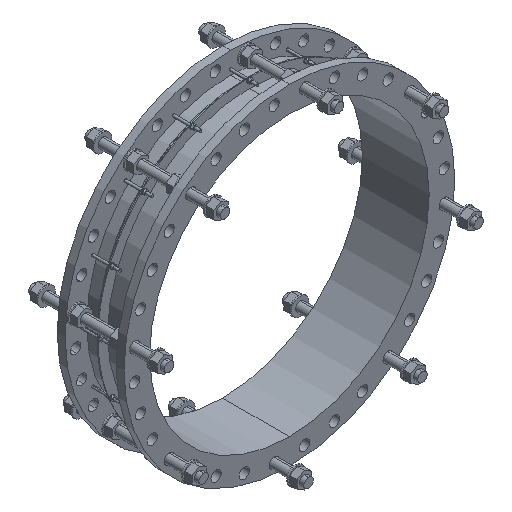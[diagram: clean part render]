
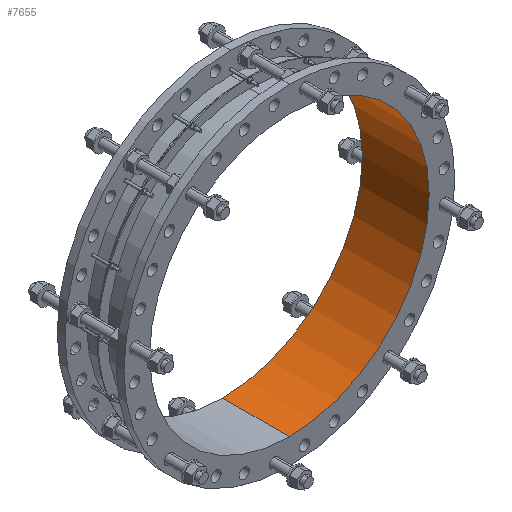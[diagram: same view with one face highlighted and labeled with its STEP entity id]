
A CAD part, isometric view. The second image highlights one B-rep face of the part: STEP entity #7655.
In plain terms, the highlighted cylindrical face has radius 669.5 mm (diameter 1339 mm), a partial arc.
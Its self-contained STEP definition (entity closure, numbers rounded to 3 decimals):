
#7=DIRECTION('',(0.,-1.,0.));
#8=VECTOR('',#7,320.);
#9=CARTESIAN_POINT('',(0.,0.,-669.5));
#10=LINE('',#9,#8);
#11=CARTESIAN_POINT('',(0.,0.,0.));
#12=DIRECTION('',(0.,-1.,0.));
#13=DIRECTION('',(0.,0.,-1.));
#14=AXIS2_PLACEMENT_3D('',#11,#12,#13);
#16=DIRECTION('',(0.,-1.,0.));
#17=VECTOR('',#16,320.);
#18=CARTESIAN_POINT('',(0.,0.,669.5));
#19=LINE('',#18,#17);
#2348=CARTESIAN_POINT('',(0.,-320.,0.));
#2349=DIRECTION('',(0.,-1.,0.));
#2350=DIRECTION('',(0.,0.,-1.));
#2351=AXIS2_PLACEMENT_3D('',#2348,#2349,#2350);
#6164=CARTESIAN_POINT('',(0.,0.,-669.5));
#6165=CARTESIAN_POINT('',(0.,-320.,-669.5));
#6166=VERTEX_POINT('',#6164);
#6167=VERTEX_POINT('',#6165);
#6184=CARTESIAN_POINT('',(0.,0.,669.5));
#6185=CARTESIAN_POINT('',(0.,-320.,669.5));
#6186=VERTEX_POINT('',#6184);
#6187=VERTEX_POINT('',#6185);
#7642=CARTESIAN_POINT('',(0.,-336.,0.));
#7643=DIRECTION('',(0.,1.,0.));
#7644=DIRECTION('',(0.,0.,-1.));
#7645=AXIS2_PLACEMENT_3D('',#7642,#7643,#7644);
#7646=CYLINDRICAL_SURFACE('',#7645,669.5);
#7647=ORIENTED_EDGE('',*,*,#7631,.F.);
#7649=ORIENTED_EDGE('',*,*,#7648,.T.);
#7650=ORIENTED_EDGE('',*,*,#7635,.T.);
#7652=ORIENTED_EDGE('',*,*,#7651,.F.);
#7653=EDGE_LOOP('',(#7647,#7649,#7650,#7652));
#7654=FACE_OUTER_BOUND('',#7653,.F.);
#7655=ADVANCED_FACE('',(#7654),#7646,.F.);
#15=CIRCLE('',#14,669.5);
#2352=CIRCLE('',#2351,669.5);
#7631=EDGE_CURVE('',#6166,#6167,#10,.T.);
#7635=EDGE_CURVE('',#6186,#6187,#19,.T.);
#7648=EDGE_CURVE('',#6166,#6186,#15,.T.);
#7651=EDGE_CURVE('',#6167,#6187,#2352,.T.);
